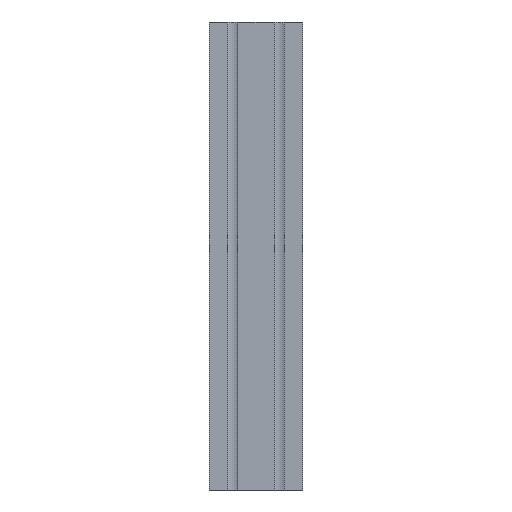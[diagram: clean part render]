
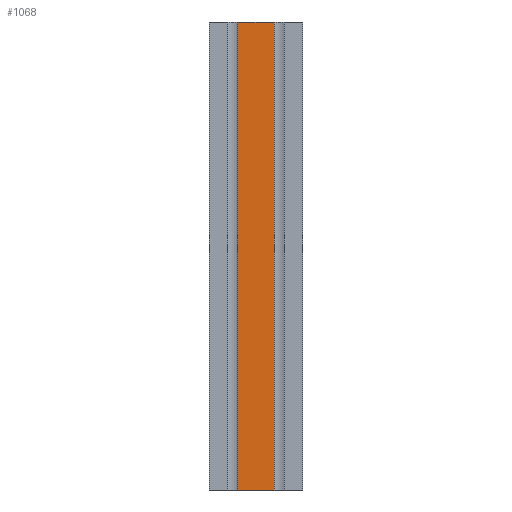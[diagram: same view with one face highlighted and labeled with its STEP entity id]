
A CAD part, left-side view. The second image highlights one B-rep face of the part: STEP entity #1068.
In plain terms, the highlighted planar face has unit normal (-1, 0, 0).
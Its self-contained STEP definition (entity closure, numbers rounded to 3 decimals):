
#77 = CARTESIAN_POINT ( 'NONE',  ( 1955.423, 700.357, 300. ) ) ;
#396 = VECTOR ( 'NONE', #1801, 1000. ) ;
#430 = ORIENTED_EDGE ( 'NONE', *, *, #3650, .T. ) ;
#434 = VERTEX_POINT ( 'NONE', #2260 ) ;
#532 = CARTESIAN_POINT ( 'NONE',  ( 1955.423, 700.357, 0. ) ) ;
#785 = LINE ( 'NONE', #2328, #2707 ) ;
#824 = FACE_OUTER_BOUND ( 'NONE', #979, .T. ) ;
#882 = DIRECTION ( 'NONE',  ( 0., 0., -1. ) ) ;
#979 = EDGE_LOOP ( 'NONE', ( #3003, #3286, #2827, #430 ) ) ;
#1065 = DIRECTION ( 'NONE',  ( 1., 0., 0. ) ) ;
#1068 = ADVANCED_FACE ( 'NONE', ( #824 ), #3348, .F. ) ;
#1203 = VERTEX_POINT ( 'NONE', #3944 ) ;
#1584 = DIRECTION ( 'NONE',  ( 0., -1., 0. ) ) ;
#1629 = VERTEX_POINT ( 'NONE', #532 ) ;
#1775 = DIRECTION ( 'NONE',  ( 0., -1., 0. ) ) ;
#1801 = DIRECTION ( 'NONE',  ( 0., 0., -1. ) ) ;
#2030 = LINE ( 'NONE', #2232, #396 ) ;
#2232 = CARTESIAN_POINT ( 'NONE',  ( 1955.423, 700.357, 300. ) ) ;
#2251 = EDGE_CURVE ( 'NONE', #434, #1629, #2030, .T. ) ;
#2260 = CARTESIAN_POINT ( 'NONE',  ( 1955.423, 700.357, 300. ) ) ;
#2328 = CARTESIAN_POINT ( 'NONE',  ( 1955.423, 723.857, 300. ) ) ;
#2537 = EDGE_CURVE ( 'NONE', #1203, #434, #3847, .T. ) ;
#2553 = CARTESIAN_POINT ( 'NONE',  ( 1955.423, 700.357, 0. ) ) ;
#2707 = VECTOR ( 'NONE', #882, 1000. ) ;
#2827 = ORIENTED_EDGE ( 'NONE', *, *, #2537, .F. ) ;
#2991 = LINE ( 'NONE', #2553, #3695 ) ;
#3003 = ORIENTED_EDGE ( 'NONE', *, *, #3714, .T. ) ;
#3286 = ORIENTED_EDGE ( 'NONE', *, *, #2251, .F. ) ;
#3319 = CARTESIAN_POINT ( 'NONE',  ( 1955.423, 723.857, 0. ) ) ;
#3348 = PLANE ( 'NONE',  #4103 ) ;
#3613 = VECTOR ( 'NONE', #1775, 1000. ) ;
#3650 = EDGE_CURVE ( 'NONE', #1203, #4112, #785, .T. ) ;
#3695 = VECTOR ( 'NONE', #1584, 1000. ) ;
#3714 = EDGE_CURVE ( 'NONE', #4112, #1629, #2991, .T. ) ;
#3750 = CARTESIAN_POINT ( 'NONE',  ( 1955.423, 700.357, 300. ) ) ;
#3847 = LINE ( 'NONE', #3750, #3613 ) ;
#3944 = CARTESIAN_POINT ( 'NONE',  ( 1955.423, 723.857, 300. ) ) ;
#4020 = DIRECTION ( 'NONE',  ( 0., 0., -1. ) ) ;
#4103 = AXIS2_PLACEMENT_3D ( 'NONE', #77, #1065, #4020 ) ;
#4112 = VERTEX_POINT ( 'NONE', #3319 ) ;
